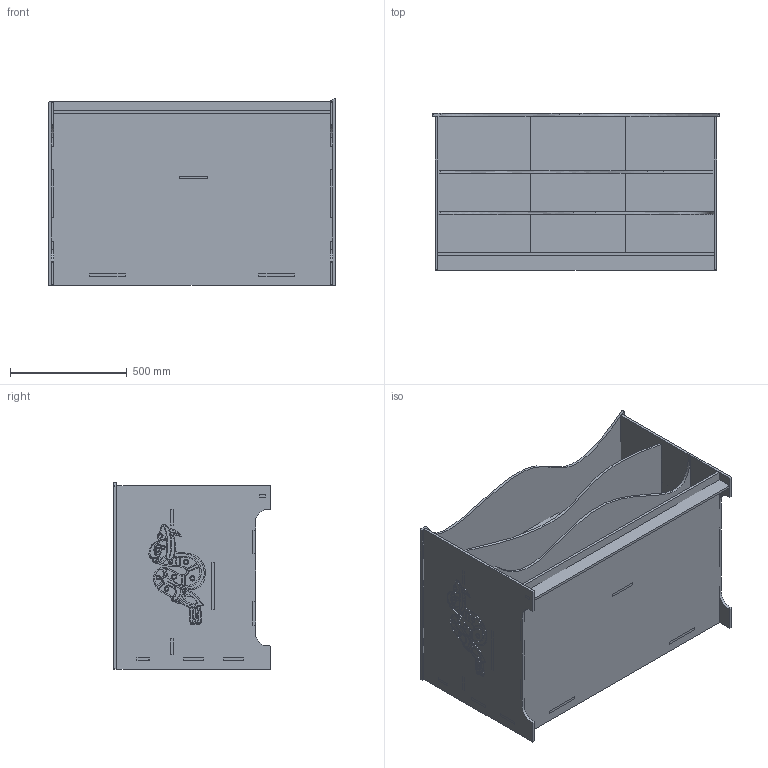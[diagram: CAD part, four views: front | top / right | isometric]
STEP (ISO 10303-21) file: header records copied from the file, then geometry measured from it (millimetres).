
FILE_DESCRIPTION(/* description */ (''),/* implementation_level */ '2;1');
FILE_NAME(/* name */ 'C:/Users/FAB/Desktop/table rev 2.5 v0.step',/* time_stamp */ '2018-06-11T18:20:27-04:00',/* author */ ('jeanluc.pierite'),/* organization */ (''),/* preprocessor_version */ 'ST-DEVELOPER v17',/* originating_system */ 'Autodesk Translation Framework v7.1.0.215',/* authorisation */ '');
FILE_SCHEMA (('AUTOMOTIVE_DESIGN { 1 0 10303 214 3 1 1 }'));
Length unit declared in the file: inch
Products named in the file (1): table rev 2.5
Bounding box: 1227.14 x 671.51 x 801.03 mm (x, y, z)
Volume: 60954192 mm3; surface area: 11614066.9 mm2
Topology: 13 solids, 13 shells, 1325 faces, 3681 edges, 2454 vertices
Faces by surface type: plane 631, bspline 627, cylinder 67
Entity records: 44022 total; most frequent: CARTESIAN_POINT 16011, ORIENTED_EDGE 7362, DIRECTION 3950, EDGE_CURVE 3681, VERTEX_POINT 2454, LINE 2284, VECTOR 2284, EDGE_LOOP 1455
